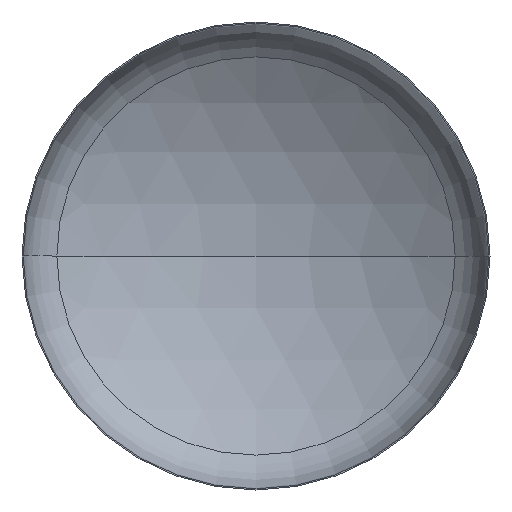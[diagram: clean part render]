
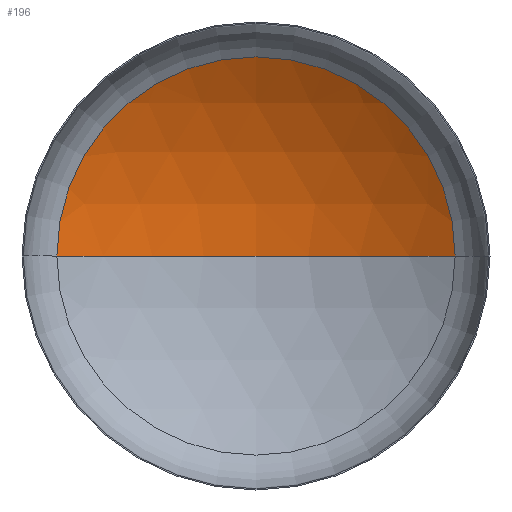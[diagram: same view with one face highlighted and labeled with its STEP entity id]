
A CAD part, front view. The second image highlights one B-rep face of the part: STEP entity #196.
In plain terms, the highlighted spherical face has radius 6400 mm.
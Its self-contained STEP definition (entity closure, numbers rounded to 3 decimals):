
#8 = VERTEX_POINT ( 'NONE', #374 ) ;
#34 = EDGE_LOOP ( 'NONE', ( #209, #309, #81 ) ) ;
#39 = DIRECTION ( 'NONE',  ( 0., 0., 1. ) ) ;
#54 = AXIS2_PLACEMENT_3D ( 'NONE', #201, #373, #174 ) ;
#76 = AXIS2_PLACEMENT_3D ( 'NONE', #246, #39, #269 ) ;
#78 = AXIS2_PLACEMENT_3D ( 'NONE', #339, #198, #369 ) ;
#80 = AXIS2_PLACEMENT_3D ( 'NONE', #101, #292, #139 ) ;
#81 = ORIENTED_EDGE ( 'NONE', *, *, #111, .T. ) ;
#101 = CARTESIAN_POINT ( 'NONE',  ( 0., 1101.561, 0. ) ) ;
#111 = EDGE_CURVE ( 'NONE', #157, #8, #153, .T. ) ;
#112 = EDGE_CURVE ( 'NONE', #272, #157, #409, .T. ) ;
#117 = EDGE_CURVE ( 'NONE', #272, #8, #338, .T. ) ;
#134 = SPHERICAL_SURFACE ( 'NONE', #54, 6400. ) ;
#139 = DIRECTION ( 'NONE',  ( 1., 0., 0. ) ) ;
#144 = CARTESIAN_POINT ( 'NONE',  ( 3404.255, 1101.561, 0. ) ) ;
#153 = CIRCLE ( 'NONE', #80, 3404.255 ) ;
#157 = VERTEX_POINT ( 'NONE', #144 ) ;
#174 = DIRECTION ( 'NONE',  ( -1., 0., 0. ) ) ;
#196 = ADVANCED_FACE ( 'NONE', ( #317 ), #134, .F. ) ;
#198 = DIRECTION ( 'NONE',  ( 0., 0., -1. ) ) ;
#201 = CARTESIAN_POINT ( 'NONE',  ( 0., -4317.945, 0. ) ) ;
#209 = ORIENTED_EDGE ( 'NONE', *, *, #117, .F. ) ;
#246 = CARTESIAN_POINT ( 'NONE',  ( 0., -4317.945, 0. ) ) ;
#269 = DIRECTION ( 'NONE',  ( 1., 0., 0. ) ) ;
#272 = VERTEX_POINT ( 'NONE', #296 ) ;
#292 = DIRECTION ( 'NONE',  ( 0., -1., 0. ) ) ;
#296 = CARTESIAN_POINT ( 'NONE',  ( 0., 2082.055, 0. ) ) ;
#309 = ORIENTED_EDGE ( 'NONE', *, *, #112, .T. ) ;
#317 = FACE_OUTER_BOUND ( 'NONE', #34, .T. ) ;
#338 = CIRCLE ( 'NONE', #76, 6400. ) ;
#339 = CARTESIAN_POINT ( 'NONE',  ( 0., -4317.945, 0. ) ) ;
#369 = DIRECTION ( 'NONE',  ( -1., 0., 0. ) ) ;
#373 = DIRECTION ( 'NONE',  ( 0., 0., -1. ) ) ;
#374 = CARTESIAN_POINT ( 'NONE',  ( -3404.255, 1101.561, 0. ) ) ;
#409 = CIRCLE ( 'NONE', #78, 6400. ) ;
